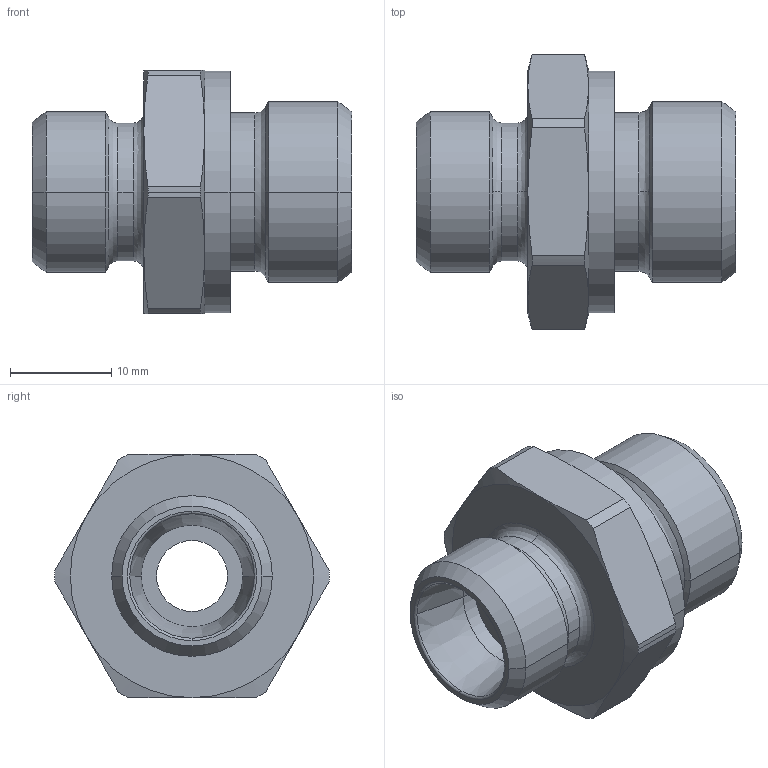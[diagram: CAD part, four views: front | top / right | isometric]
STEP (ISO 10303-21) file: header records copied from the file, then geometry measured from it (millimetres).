
FILE_DESCRIPTION((''),'2;1');
FILE_NAME('100627.stp','2007-10-30T15:05:56',(''),(''),'AutoCAD STEP 2000i','AutoCAD 2000i',', , ');
FILE_SCHEMA(('CONFIG_CONTROL_DESIGN'));
Length unit declared in the file: millimetre
Products named in the file (2): 100627.0; CHIAVE SMUSSATA#0
Assembly tree (1 placements, depth 2):
  100627.0
    CHIAVE SMUSSATA#0
Bounding box: 31.5 x 27.1 x 24 mm (x, y, z)
Volume: 6948.5 mm3; surface area: 3665 mm2
Topology: 1 solids, 1 shells, 75 faces, 185 edges, 117 vertices
Faces by surface type: cylinder 24, cone 24, plane 13, bspline 12, torus 2
Entity records: 2835 total; most frequent: CARTESIAN_POINT 955, DIRECTION 410, ORIENTED_EDGE 370, EDGE_CURVE 185, AXIS2_PLACEMENT_3D 184, CIRCLE 119, VERTEX_POINT 117, EDGE_LOOP 82
